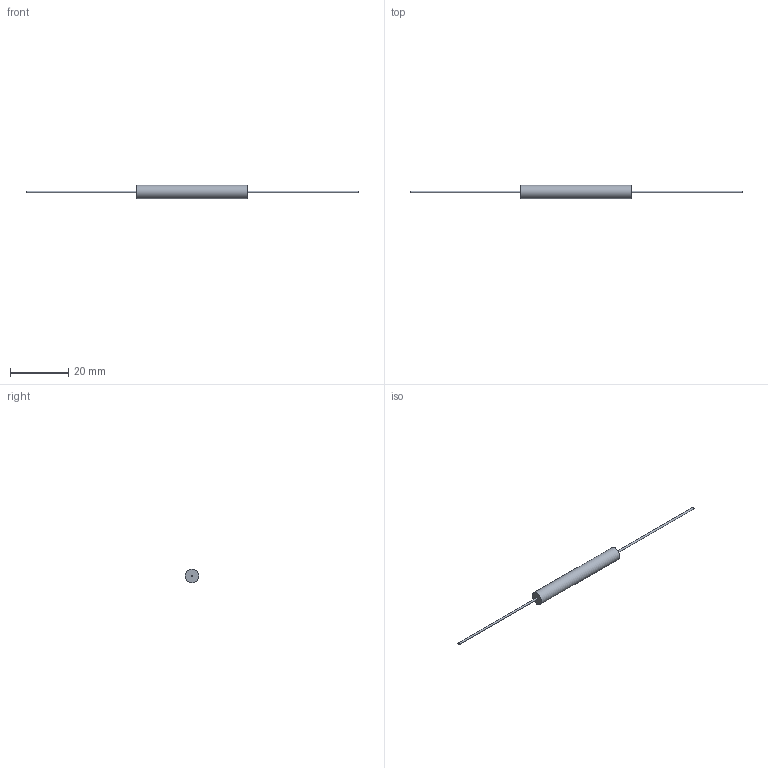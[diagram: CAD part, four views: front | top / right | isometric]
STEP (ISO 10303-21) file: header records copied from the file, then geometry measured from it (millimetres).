
FILE_DESCRIPTION(/* description */ (''),/* implementation_level */ '2;1');
FILE_NAME(/* name */ 'C:\Users\mulla\Documents\SEI Models\Inventor Files\HVAM\3D\HVAM20_stp.stp',/* time_stamp */ '2019-06-12T13:02:30-04:00',/* author */ ('mulla'),/* organization */ (''),/* preprocessor_version */ 'ST-DEVELOPER v16.1',/* originating_system */ 'Autodesk Inventor 2016',/* authorisation */ '');
FILE_SCHEMA (('AUTOMOTIVE_DESIGN { 1 0 10303 214 3 1 1 }'));
Length unit declared in the file: millimetre
Products named in the file (1): HVAM20
Bounding box: 114.3 x 4.57 x 4.57 mm (x, y, z)
Volume: 649.5 mm3; surface area: 734.3 mm2
Topology: 3 solids, 3 shells, 9 faces, 9 edges, 6 vertices
Faces by surface type: plane 6, cylinder 3
Full cylindrical faces by diameter (mm): 0.64 x2, 4.57 x1
Entity records: 186 total; most frequent: DIRECTION 32, CARTESIAN_POINT 22, AXIS2_PLACEMENT_3D 16, EDGE_LOOP 12, ORIENTED_EDGE 12, FACE_OUTER_BOUND 9, ADVANCED_FACE 9, PLANE 6
